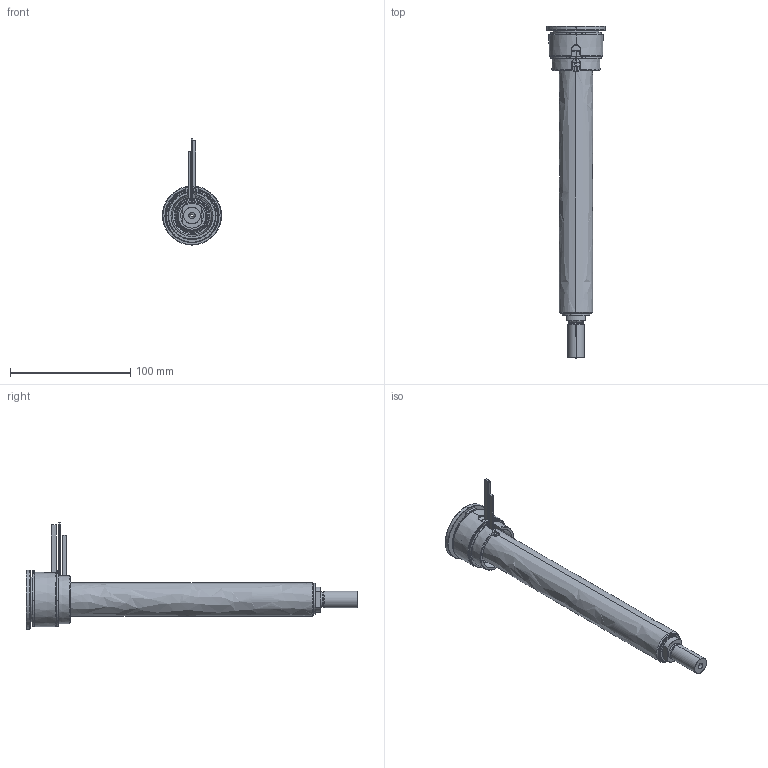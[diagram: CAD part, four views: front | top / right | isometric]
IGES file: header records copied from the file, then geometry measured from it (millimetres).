
Start section: SolidWorks IGES file using analytic representation for surfaces
Global section: file name: C:\Documents and Settings\ws-20\Desktop\TEM\UGBE4505-S-A-P-3 [Ød-2.0 P-25 ØC-09].IGS; native system: SolidWorks 2012; preprocessor: SolidWorks 2012; author: ws-20; date: 120412.153731; units: millimetre
Bounding box: 49 x 276 x 88.15 mm (x, y, z)
Surface area: 84747.7 mm2 (no closed solid volume)
Topology: 0 solids, 0 shells, 164 faces, 3079 edges, 3079 vertices
Faces by surface type: revolution 106, bspline 58
